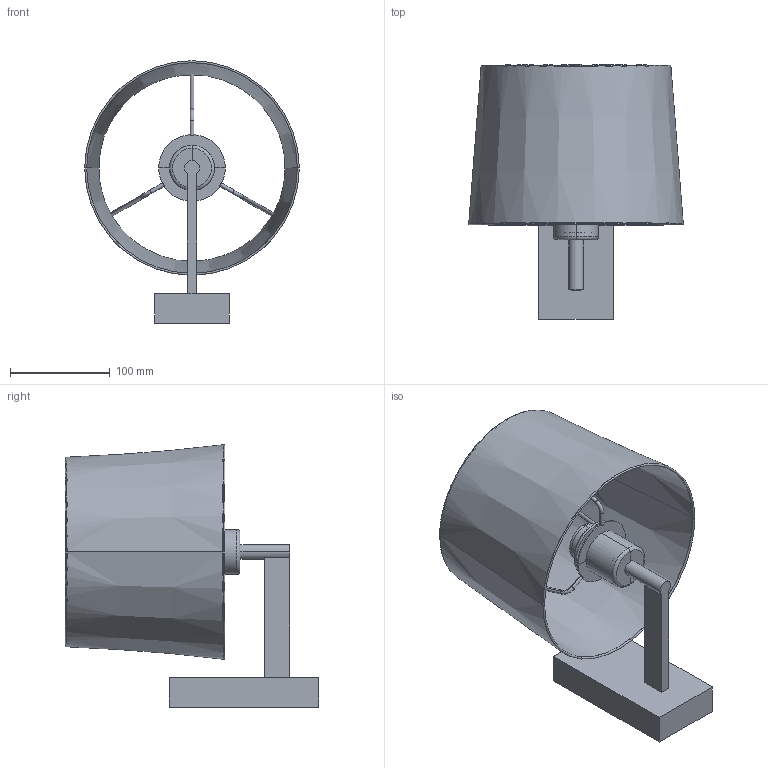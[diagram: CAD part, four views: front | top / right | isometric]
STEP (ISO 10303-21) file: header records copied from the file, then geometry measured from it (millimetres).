
FILE_DESCRIPTION(/* description */ (''),/* implementation_level */ '2;1');
FILE_NAME(/* name */ 'C:\Users\FrancoSartori\Documents\FARO\01_En Proceso\00_ARTIS\03_Publicación\68491-01.stp',/* time_stamp */ '2021-06-07T12:46:24+02:00',/* author */ ('FrancoSartori'),/* organization */ (''),/* preprocessor_version */ 'ST-DEVELOPER v18.1',/* originating_system */ 'AutoCAD Mechanical',/* authorisation */ '');
FILE_SCHEMA (('AUTOMOTIVE_DESIGN { 1 0 10303 214 3 1 1 }'));
Length unit declared in the file: millimetre
Products named in the file (3): Product; 68490_ - structure-565438-_3D_; 2P0111 - 2P0111 White textile shade-565455-_3D_
Assembly tree (2 placements, depth 2):
  Product
    68490_ - structure-565438-_3D_
    2P0111 - 2P0111 White textile shade-565455-_3D_
Bounding box: 214.84 x 254.02 x 262.92 mm (x, y, z)
Volume: 302290.4 mm3; surface area: 509258.9 mm2
Topology: 10 solids, 10 shells, 140 faces, 312 edges, 186 vertices
Faces by surface type: plane 68, cylinder 46, torus 16, cone 10
Entity records: 5270 total; most frequent: CARTESIAN_POINT 2123, DIRECTION 634, ORIENTED_EDGE 624, EDGE_CURVE 312, AXIS2_PLACEMENT_3D 239, VERTEX_POINT 186, LINE 156, VECTOR 156
